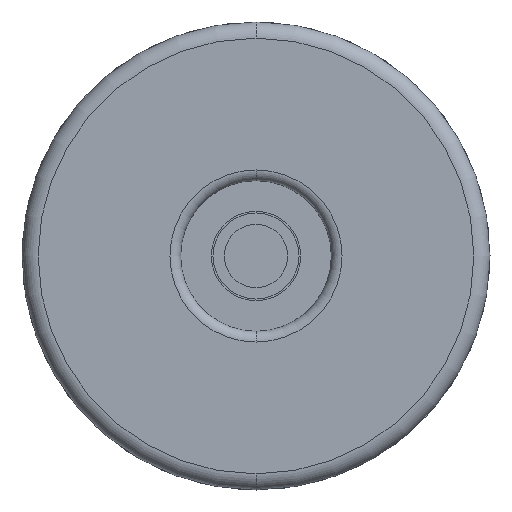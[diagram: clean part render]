
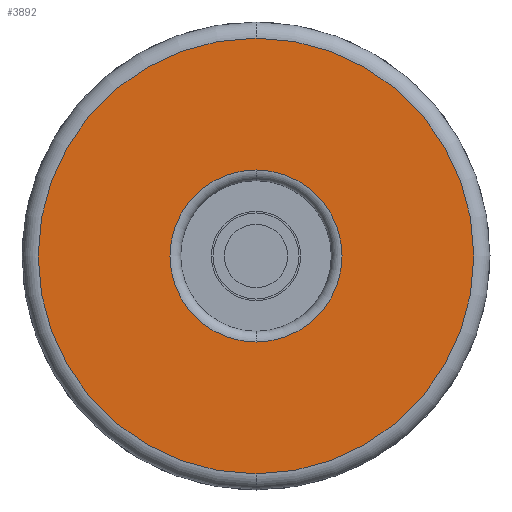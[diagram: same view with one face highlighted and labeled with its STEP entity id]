
A CAD part, front view. The second image highlights one B-rep face of the part: STEP entity #3892.
In plain terms, the highlighted planar face has unit normal (0, -1, 0).
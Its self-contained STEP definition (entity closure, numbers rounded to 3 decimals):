
#5 = AXIS2_PLACEMENT_3D ( 'NONE', #1304, #1666, #59 ) ;
#42 = ORIENTED_EDGE ( 'NONE', *, *, #3835, .T. ) ;
#59 = DIRECTION ( 'NONE',  ( 0., 0., -1. ) ) ;
#68 = CIRCLE ( 'NONE', #1525, 20.25 ) ;
#400 = CARTESIAN_POINT ( 'NONE',  ( 0., 0., 20.25 ) ) ;
#405 = CIRCLE ( 'NONE', #1255, 8. ) ;
#705 = ORIENTED_EDGE ( 'NONE', *, *, #3112, .T. ) ;
#937 = CARTESIAN_POINT ( 'NONE',  ( 0., 0., 0. ) ) ;
#979 = CARTESIAN_POINT ( 'NONE',  ( -7., 0., 0. ) ) ;
#1193 = EDGE_LOOP ( 'NONE', ( #1726, #42 ) ) ;
#1255 = AXIS2_PLACEMENT_3D ( 'NONE', #937, #2468, #3549 ) ;
#1304 = CARTESIAN_POINT ( 'NONE',  ( 0., 0., 0. ) ) ;
#1525 = AXIS2_PLACEMENT_3D ( 'NONE', #3181, #2400, #1979 ) ;
#1582 = FACE_OUTER_BOUND ( 'NONE', #1193, .T. ) ;
#1595 = PLANE ( 'NONE',  #2820 ) ;
#1666 = DIRECTION ( 'NONE',  ( 0., 1., 0. ) ) ;
#1726 = ORIENTED_EDGE ( 'NONE', *, *, #3678, .T. ) ;
#1859 = CARTESIAN_POINT ( 'NONE',  ( 0., 0., -20.25 ) ) ;
#1971 = EDGE_CURVE ( 'NONE', #2436, #2480, #4610, .T. ) ;
#1979 = DIRECTION ( 'NONE',  ( 0., 0., -1. ) ) ;
#2400 = DIRECTION ( 'NONE',  ( 0., -1., 0. ) ) ;
#2436 = VERTEX_POINT ( 'NONE', #3717 ) ;
#2468 = DIRECTION ( 'NONE',  ( 0., 1., 0. ) ) ;
#2480 = VERTEX_POINT ( 'NONE', #3441 ) ;
#2639 = FACE_BOUND ( 'NONE', #4033, .T. ) ;
#2778 = VERTEX_POINT ( 'NONE', #400 ) ;
#2820 = AXIS2_PLACEMENT_3D ( 'NONE', #979, #4368, #2862 ) ;
#2862 = DIRECTION ( 'NONE',  ( 0., 0., -1. ) ) ;
#3112 = EDGE_CURVE ( 'NONE', #2480, #2436, #405, .T. ) ;
#3181 = CARTESIAN_POINT ( 'NONE',  ( 0., 0., 0. ) ) ;
#3441 = CARTESIAN_POINT ( 'NONE',  ( 0., 0., -8. ) ) ;
#3480 = DIRECTION ( 'NONE',  ( 0., 0., -1. ) ) ;
#3549 = DIRECTION ( 'NONE',  ( 0., 0., -1. ) ) ;
#3678 = EDGE_CURVE ( 'NONE', #4145, #2778, #4366, .T. ) ;
#3717 = CARTESIAN_POINT ( 'NONE',  ( 0., 0., 8. ) ) ;
#3835 = EDGE_CURVE ( 'NONE', #2778, #4145, #68, .T. ) ;
#3892 = ADVANCED_FACE ( 'NONE', ( #1582, #2639 ), #1595, .T. ) ;
#4033 = EDGE_LOOP ( 'NONE', ( #705, #4325 ) ) ;
#4145 = VERTEX_POINT ( 'NONE', #1859 ) ;
#4219 = AXIS2_PLACEMENT_3D ( 'NONE', #4532, #4586, #3480 ) ;
#4325 = ORIENTED_EDGE ( 'NONE', *, *, #1971, .T. ) ;
#4366 = CIRCLE ( 'NONE', #4219, 20.25 ) ;
#4368 = DIRECTION ( 'NONE',  ( 0., -1., 0. ) ) ;
#4532 = CARTESIAN_POINT ( 'NONE',  ( 0., 0., 0. ) ) ;
#4586 = DIRECTION ( 'NONE',  ( 0., -1., 0. ) ) ;
#4610 = CIRCLE ( 'NONE', #5, 8. ) ;
